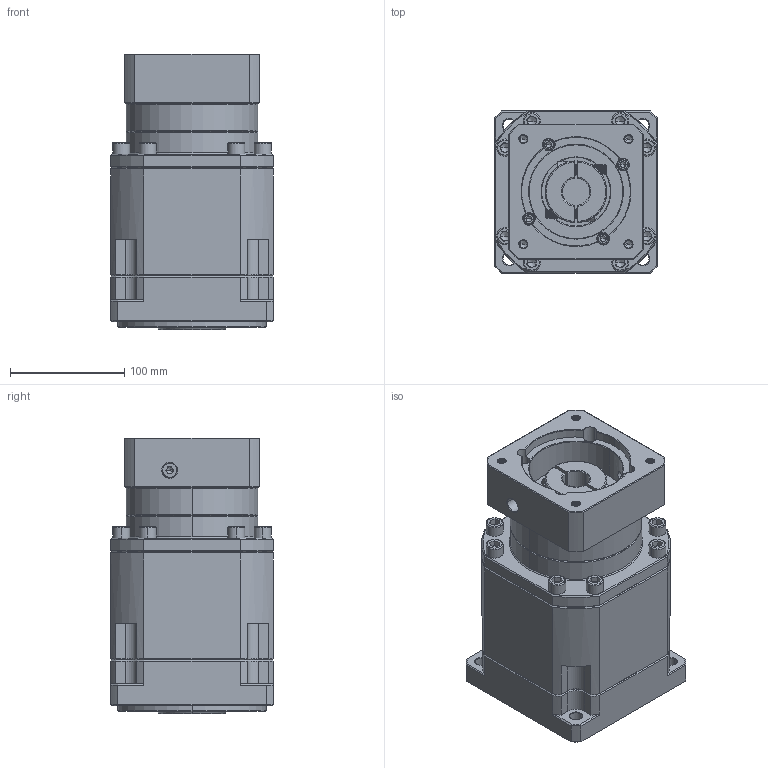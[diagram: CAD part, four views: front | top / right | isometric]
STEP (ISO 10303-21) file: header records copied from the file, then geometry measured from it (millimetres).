
FILE_DESCRIPTION (( 'STEP AP214' ), '1' );
FILE_NAME ('ZB142A-K35-L3-24-95-130-M8.step', '2023-03-18T07:09:54', ( '' ), ( '' ), 'SwSTEP 2.0', 'SolidWorks 2016', '' );
FILE_SCHEMA (( 'AUTOMOTIVE_DESIGN' ));
Length unit declared in the file: millimetre
Products named in the file (1): ZB142A-K35-L3-24-95-130-M8
Bounding box: 142 x 142 x 240.7 mm (x, y, z)
Volume: 3549984.4 mm3; surface area: 253235.4 mm2
Topology: 6 solids, 6 shells, 2210 faces, 5699 edges, 3605 vertices
Faces by surface type: plane 1018, cylinder 456, cone 380, bspline 300, torus 56
Entity records: 113383 total; most frequent: CARTESIAN_POINT 37649, ORIENTED_EDGE 11294, DIRECTION 9645, EDGE_CURVE 5647, VERTEX_POINT 3605, VECTOR 3529, LINE 3529, AXIS2_PLACEMENT_3D 3058
